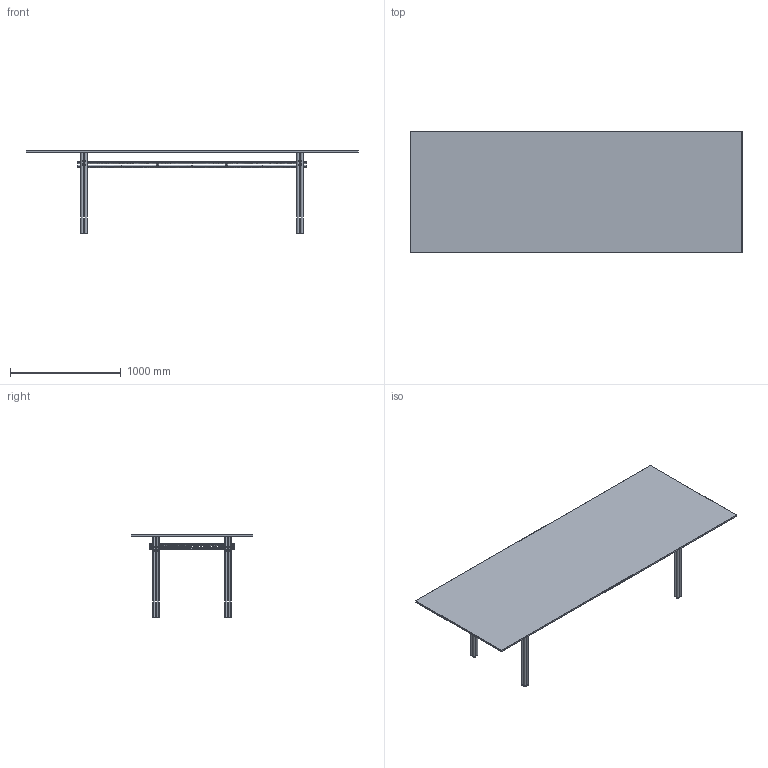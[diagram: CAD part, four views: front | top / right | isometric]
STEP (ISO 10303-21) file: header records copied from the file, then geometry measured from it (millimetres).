
FILE_DESCRIPTION(/* description */ (''),/* implementation_level */ '2;1');
FILE_NAME(/* name */ 'CRISTA~1',/* time_stamp */ '2022-10-18T17:53:24+02:00',/* author */ (''),/* organization */ (''),/* preprocessor_version */ 'ST-DEVELOPER v16.5',/* originating_system */ '',/* authorisation */ '');
FILE_SCHEMA (('AUTOMOTIVE_DESIGN'));
Products named in the file (1): Document
Bounding box: 3000 x 1100 x 749.96 mm (x, y, z)
Volume: 53035434.1 mm3; surface area: 9581689.7 mm2
Topology: 65 solids, 65 shells, 506 faces, 17125 edges, 16729 vertices
Faces by surface type: bspline 352, plane 154
Entity records: 370831 total; most frequent: CARTESIAN_POINT 266970, B_SPLINE_CURVE_WITH_KNOTS 16740, COLOUR_RGB 15902, PRESENTATION_STYLE_ASSIGNMENT 15902, STYLED_ITEM 15902, PRESENTATION_LAYER_ASSIGNMENT 15902, CURVE_STYLE 15837, ORIENTED_EDGE 2560
